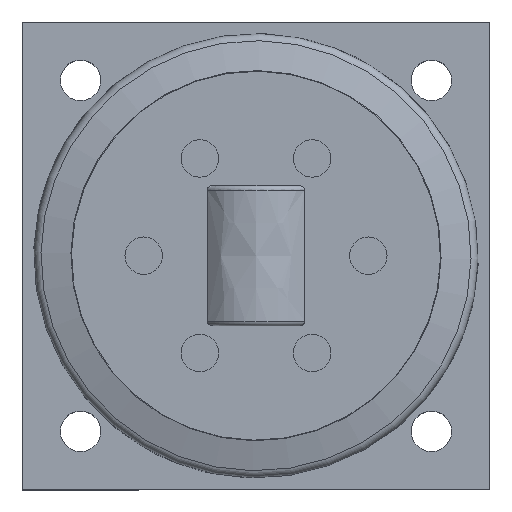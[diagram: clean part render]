
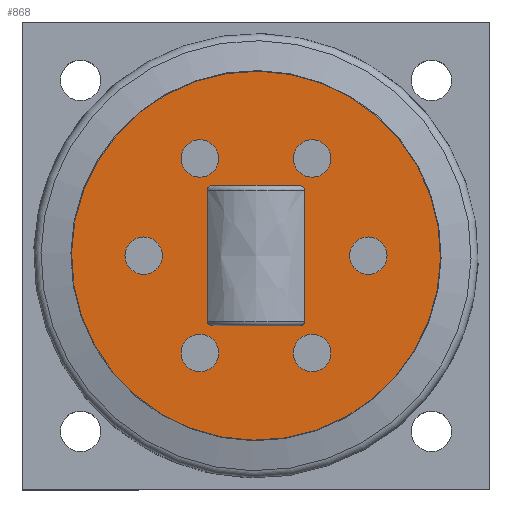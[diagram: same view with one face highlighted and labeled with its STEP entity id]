
A CAD part, top view. The second image highlights one B-rep face of the part: STEP entity #868.
In plain terms, the highlighted planar face has unit normal (0, 0, 1).
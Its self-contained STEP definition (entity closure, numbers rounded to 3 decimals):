
#399=CARTESIAN_POINT('',(-127.51,-56.089,6.251));
#400=VERTEX_POINT('',#399);
#401=CARTESIAN_POINT('',(-130.304,-58.051,6.251));
#402=VERTEX_POINT('',#401);
#403=CARTESIAN_POINT('',(-127.51,-56.089,6.251));
#404=CARTESIAN_POINT('',(-127.515,-56.302,6.251));
#405=CARTESIAN_POINT('',(-127.578,-56.543,6.251));
#406=CARTESIAN_POINT('',(-127.785,-56.965,6.251));
#407=CARTESIAN_POINT('',(-127.985,-57.204,6.251));
#408=CARTESIAN_POINT('',(-128.432,-57.575,6.251));
#409=CARTESIAN_POINT('',(-128.771,-57.752,6.251));
#410=CARTESIAN_POINT('',(-129.445,-57.982,6.251));
#411=CARTESIAN_POINT('',(-129.911,-58.051,6.251));
#412=CARTESIAN_POINT('',(-130.304,-58.051,6.251));
#413=B_SPLINE_CURVE_WITH_KNOTS('',3,(#403,#404,#405,#406,#407,#408,#409,#410,#411,#412),.UNSPECIFIED.,.F.,.U.,(4,2,2,2,4),(0.004,0.067,0.145,0.241,0.358),.UNSPECIFIED.);
#414=EDGE_CURVE('',#400,#402,#413,.T.);
#416=CARTESIAN_POINT('',(-169.289,-56.089,6.251));
#417=VERTEX_POINT('',#416);
#425=CARTESIAN_POINT('',(-166.495,-58.051,6.251));
#426=VERTEX_POINT('',#425);
#427=CARTESIAN_POINT('',(-166.495,-58.051,6.251));
#428=CARTESIAN_POINT('',(-166.887,-58.051,6.251));
#429=CARTESIAN_POINT('',(-167.353,-57.982,6.251));
#430=CARTESIAN_POINT('',(-168.027,-57.752,6.251));
#431=CARTESIAN_POINT('',(-168.367,-57.575,6.251));
#432=CARTESIAN_POINT('',(-168.813,-57.204,6.251));
#433=CARTESIAN_POINT('',(-169.014,-56.965,6.251));
#434=CARTESIAN_POINT('',(-169.221,-56.543,6.251));
#435=CARTESIAN_POINT('',(-169.284,-56.302,6.251));
#436=CARTESIAN_POINT('',(-169.289,-56.089,6.251));
#437=B_SPLINE_CURVE_WITH_KNOTS('',3,(#427,#428,#429,#430,#431,#432,#433,#434,#435,#436),.UNSPECIFIED.,.F.,.U.,(4,2,2,2,4),(1.111,1.229,1.324,1.402,1.465),.UNSPECIFIED.);
#438=EDGE_CURVE('',#426,#417,#437,.T.);
#473=CARTESIAN_POINT('',(-127.51,-0.014,6.251));
#474=VERTEX_POINT('',#473);
#475=CARTESIAN_POINT('',(-127.51,-0.014,6.251));
#476=CARTESIAN_POINT('',(-127.266,-9.651,6.251));
#477=CARTESIAN_POINT('',(-127.157,-19.07,6.251));
#478=CARTESIAN_POINT('',(-127.157,-37.033,6.251));
#479=CARTESIAN_POINT('',(-127.266,-46.452,6.251));
#480=CARTESIAN_POINT('',(-127.51,-56.089,6.251));
#481=B_SPLINE_CURVE_WITH_KNOTS('',3,(#475,#476,#477,#478,#479,#480),.UNSPECIFIED.,.F.,.U.,(4,2,4),(45.754,48.449,51.143),.UNSPECIFIED.);
#482=EDGE_CURVE('',#474,#400,#481,.T.);
#484=CARTESIAN_POINT('',(-169.289,-0.014,6.251));
#485=VERTEX_POINT('',#484);
#493=CARTESIAN_POINT('',(-169.289,-56.089,6.251));
#494=CARTESIAN_POINT('',(-169.533,-46.452,6.251));
#495=CARTESIAN_POINT('',(-169.642,-37.033,6.251));
#496=CARTESIAN_POINT('',(-169.642,-19.07,6.251));
#497=CARTESIAN_POINT('',(-169.533,-9.651,6.251));
#498=CARTESIAN_POINT('',(-169.289,-0.014,6.251));
#499=B_SPLINE_CURVE_WITH_KNOTS('',3,(#493,#494,#495,#496,#497,#498),.UNSPECIFIED.,.F.,.U.,(4,2,4),(13.455,16.15,18.844),.UNSPECIFIED.);
#500=EDGE_CURVE('',#417,#485,#499,.T.);
#511=CARTESIAN_POINT('',(-130.304,1.949,6.251));
#512=VERTEX_POINT('',#511);
#513=CARTESIAN_POINT('',(-130.304,1.949,6.251));
#514=CARTESIAN_POINT('',(-129.911,1.949,6.251));
#515=CARTESIAN_POINT('',(-129.445,1.88,6.251));
#516=CARTESIAN_POINT('',(-128.771,1.65,6.251));
#517=CARTESIAN_POINT('',(-128.432,1.472,6.251));
#518=CARTESIAN_POINT('',(-127.985,1.102,6.251));
#519=CARTESIAN_POINT('',(-127.785,0.862,6.251));
#520=CARTESIAN_POINT('',(-127.578,0.44,6.251));
#521=CARTESIAN_POINT('',(-127.515,0.199,6.251));
#522=CARTESIAN_POINT('',(-127.51,-0.014,6.251));
#523=B_SPLINE_CURVE_WITH_KNOTS('',3,(#513,#514,#515,#516,#517,#518,#519,#520,#521,#522),.UNSPECIFIED.,.F.,.U.,(4,2,2,2,4),(1.111,1.229,1.324,1.402,1.465),.UNSPECIFIED.);
#524=EDGE_CURVE('',#512,#474,#523,.T.);
#526=CARTESIAN_POINT('',(-166.495,1.949,6.251));
#527=VERTEX_POINT('',#526);
#535=CARTESIAN_POINT('',(-169.289,-0.014,6.251));
#536=CARTESIAN_POINT('',(-169.284,0.199,6.251));
#537=CARTESIAN_POINT('',(-169.221,0.44,6.251));
#538=CARTESIAN_POINT('',(-169.014,0.862,6.251));
#539=CARTESIAN_POINT('',(-168.813,1.102,6.251));
#540=CARTESIAN_POINT('',(-168.367,1.472,6.251));
#541=CARTESIAN_POINT('',(-168.027,1.65,6.251));
#542=CARTESIAN_POINT('',(-167.353,1.88,6.251));
#543=CARTESIAN_POINT('',(-166.887,1.949,6.251));
#544=CARTESIAN_POINT('',(-166.495,1.949,6.251));
#545=B_SPLINE_CURVE_WITH_KNOTS('',3,(#535,#536,#537,#538,#539,#540,#541,#542,#543,#544),.UNSPECIFIED.,.F.,.U.,(4,2,2,2,4),(0.004,0.067,0.145,0.241,0.358),.UNSPECIFIED.);
#546=EDGE_CURVE('',#485,#527,#545,.T.);
#568=CARTESIAN_POINT('',(-120.399,-62.692,6.251));
#569=VERTEX_POINT('',#568);
#570=CARTESIAN_POINT('',(-124.399,-69.621,6.251));
#571=DIRECTION('',(0.,0.,-1.0));
#572=DIRECTION('',(-0.5,-0.866,0.));
#573=AXIS2_PLACEMENT_3D('',#570,#571,#572);
#574=CIRCLE('',#573,8.);
#575=EDGE_CURVE('',#569,#569,#574,.T.);
#605=CARTESIAN_POINT('',(-164.399,-69.621,6.251));
#606=VERTEX_POINT('',#605);
#607=CARTESIAN_POINT('',(-172.399,-69.621,6.251));
#608=DIRECTION('',(0.,0.,-1.0));
#609=DIRECTION('',(-1.0,0.,0.));
#610=AXIS2_PLACEMENT_3D('',#607,#608,#609);
#611=CIRCLE('',#610,8.);
#612=EDGE_CURVE('',#606,#606,#611,.T.);
#642=CARTESIAN_POINT('',(-192.399,-34.98,6.251));
#643=VERTEX_POINT('',#642);
#644=CARTESIAN_POINT('',(-196.399,-28.051,6.251));
#645=DIRECTION('',(0.,0.,-1.0));
#646=DIRECTION('',(-0.5,0.866,0.));
#647=AXIS2_PLACEMENT_3D('',#644,#645,#646);
#648=CIRCLE('',#647,8.);
#649=EDGE_CURVE('',#643,#643,#648,.T.);
#679=CARTESIAN_POINT('',(-176.399,6.59,6.251));
#680=VERTEX_POINT('',#679);
#681=CARTESIAN_POINT('',(-172.399,13.518,6.251));
#682=DIRECTION('',(0.,0.,-1.0));
#683=DIRECTION('',(0.5,0.866,0.));
#684=AXIS2_PLACEMENT_3D('',#681,#682,#683);
#685=CIRCLE('',#684,8.);
#686=EDGE_CURVE('',#680,#680,#685,.T.);
#716=CARTESIAN_POINT('',(-132.399,13.518,6.251));
#717=VERTEX_POINT('',#716);
#718=CARTESIAN_POINT('',(-124.399,13.518,6.251));
#719=DIRECTION('',(0.,0.,-1.0));
#720=DIRECTION('',(1.0,0.,0.));
#721=AXIS2_PLACEMENT_3D('',#718,#719,#720);
#722=CIRCLE('',#721,8.);
#723=EDGE_CURVE('',#717,#717,#722,.T.);
#753=CARTESIAN_POINT('',(-104.399,-21.123,6.251));
#754=VERTEX_POINT('',#753);
#755=CARTESIAN_POINT('',(-100.399,-28.051,6.251));
#756=DIRECTION('',(0.,0.,-1.0));
#757=DIRECTION('',(0.5,-0.866,0.));
#758=AXIS2_PLACEMENT_3D('',#755,#756,#757);
#759=CIRCLE('',#758,8.);
#760=EDGE_CURVE('',#754,#754,#759,.T.);
#779=CARTESIAN_POINT('',(-166.495,1.949,6.251));
#780=DIRECTION('',(1.0,0.0,0.0));
#781=VECTOR('',#780,36.191);
#782=LINE('',#779,#781);
#783=EDGE_CURVE('',#527,#512,#782,.T.);
#794=CARTESIAN_POINT('',(-130.304,-58.051,6.251));
#795=DIRECTION('',(-1.0,0.0,0.0));
#796=VECTOR('',#795,36.191);
#797=LINE('',#794,#796);
#798=EDGE_CURVE('',#402,#426,#797,.T.);
#820=CARTESIAN_POINT('',(-122.542,-102.561,6.251));
#821=VERTEX_POINT('',#820);
#822=CARTESIAN_POINT('',(-148.399,-28.051,6.251));
#823=DIRECTION('',(0.,0.,-1.0));
#824=DIRECTION('',(-0.328,0.945,0.));
#825=AXIS2_PLACEMENT_3D('',#822,#823,#824);
#826=CIRCLE('',#825,78.868);
#827=EDGE_CURVE('',#821,#821,#826,.T.);
#832=CARTESIAN_POINT('',(-124.409,-97.182,6.251));
#833=DIRECTION('',(0.,0.,1.0));
#834=DIRECTION('',(-0.945,-0.328,0.));
#835=AXIS2_PLACEMENT_3D('',#832,#833,#834);
#836=PLANE('',#835);
#837=ORIENTED_EDGE('',*,*,#827,.F.);
#838=EDGE_LOOP('',(#837));
#839=FACE_OUTER_BOUND('',#838,.T.);
#840=ORIENTED_EDGE('',*,*,#798,.T.);
#841=ORIENTED_EDGE('',*,*,#438,.T.);
#842=ORIENTED_EDGE('',*,*,#500,.T.);
#843=ORIENTED_EDGE('',*,*,#546,.T.);
#844=ORIENTED_EDGE('',*,*,#783,.T.);
#845=ORIENTED_EDGE('',*,*,#524,.T.);
#846=ORIENTED_EDGE('',*,*,#482,.T.);
#847=ORIENTED_EDGE('',*,*,#414,.T.);
#848=EDGE_LOOP('',(#840,#841,#842,#843,#844,#845,#846,#847));
#849=FACE_BOUND('',#848,.T.);
#850=ORIENTED_EDGE('',*,*,#575,.T.);
#851=EDGE_LOOP('',(#850));
#852=FACE_BOUND('',#851,.T.);
#853=ORIENTED_EDGE('',*,*,#612,.T.);
#854=EDGE_LOOP('',(#853));
#855=FACE_BOUND('',#854,.T.);
#856=ORIENTED_EDGE('',*,*,#649,.T.);
#857=EDGE_LOOP('',(#856));
#858=FACE_BOUND('',#857,.T.);
#859=ORIENTED_EDGE('',*,*,#686,.T.);
#860=EDGE_LOOP('',(#859));
#861=FACE_BOUND('',#860,.T.);
#862=ORIENTED_EDGE('',*,*,#723,.T.);
#863=EDGE_LOOP('',(#862));
#864=FACE_BOUND('',#863,.T.);
#865=ORIENTED_EDGE('',*,*,#760,.T.);
#866=EDGE_LOOP('',(#865));
#867=FACE_BOUND('',#866,.T.);
#868=ADVANCED_FACE('',(#839,#849,#852,#855,#858,#861,#864,#867),#836,.T.);
